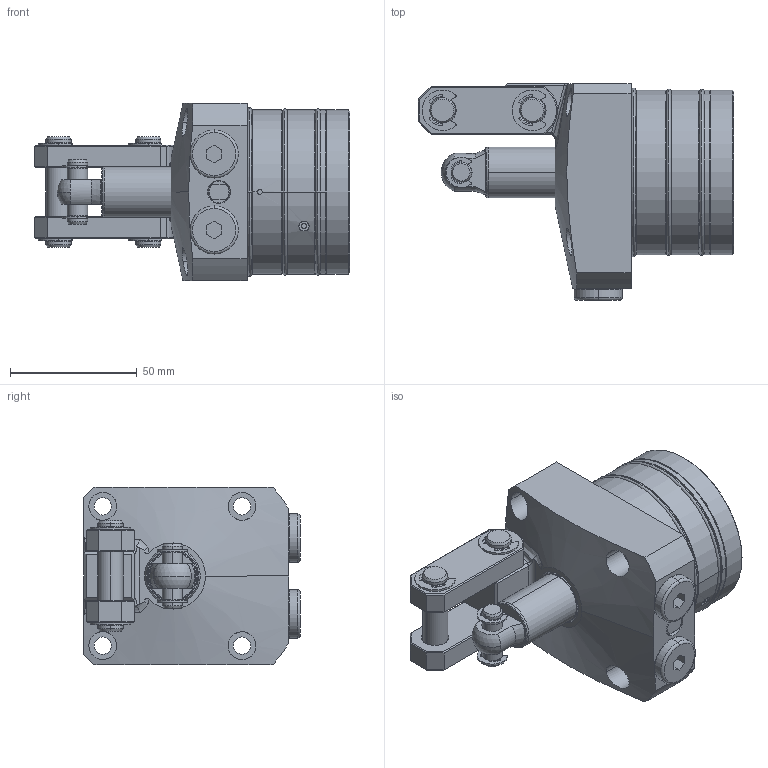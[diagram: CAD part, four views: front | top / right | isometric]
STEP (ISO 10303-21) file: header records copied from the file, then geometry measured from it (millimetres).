
FILE_DESCRIPTION(/* description */ (''),/* implementation_level */ '2;1');
FILE_NAME(/* name */ 'KTPW65-FE.stp',/* time_stamp */ '2022-11-19T16:05:10+08:00',/* author */ (''),/* organization */ (''),/* preprocessor_version */ 'ST-DEVELOPER v16.7',/* originating_system */ 'SIEMENS PLM Software NX 12.0',/* authorisation */ '');
FILE_SCHEMA (('AP203_CONFIGURATION_CONTROLLED_3D_DESIGN_OF_MECHANICAL_PARTS_AND_ASSEMBLIES_MIM_LF { 1 0 10303 403 2 1 2}'));
Length unit declared in the file: millimetre
Products named in the file (11): KTPW65-FE-03; KTPW65-FE-01; KTPW65-FE-09; KTPW65-FE-02; KTPW65-FE-04; KTPW65-FE-08; KTPW65-FE-06; KTPW65-FE-07; KTPW65-FE-05; KTPW65-FE-010; LKW0651-CCE_step
Assembly tree (19 placements, depth 2):
  LKW0651-CCE_step
    KTPW65-FE-010  x3
    KTPW65-FE-05  x2
    KTPW65-FE-07  x4
    KTPW65-FE-06
    KTPW65-FE-08  x2
    KTPW65-FE-04  x2
    KTPW65-FE-02
    KTPW65-FE-09  x2
    KTPW65-FE-01
    KTPW65-FE-03
Bounding box: 124.5 x 85.5 x 70 mm (x, y, z)
Volume: 309695.4 mm3; surface area: 63918.3 mm2
Topology: 22 solids, 22 shells, 691 faces, 1601 edges, 991 vertices
Faces by surface type: cylinder 266, plane 205, torus 129, cone 79, bspline 10, sphere 2
Full cylindrical faces by diameter (mm): 65 x1
Entity records: 14576 total; most frequent: CARTESIAN_POINT 3186, DIRECTION 2267, ORIENTED_EDGE 1922, EDGE_CURVE 961, AXIS2_PLACEMENT_3D 949, VERTEX_POINT 591, CIRCLE 513, EDGE_LOOP 480
